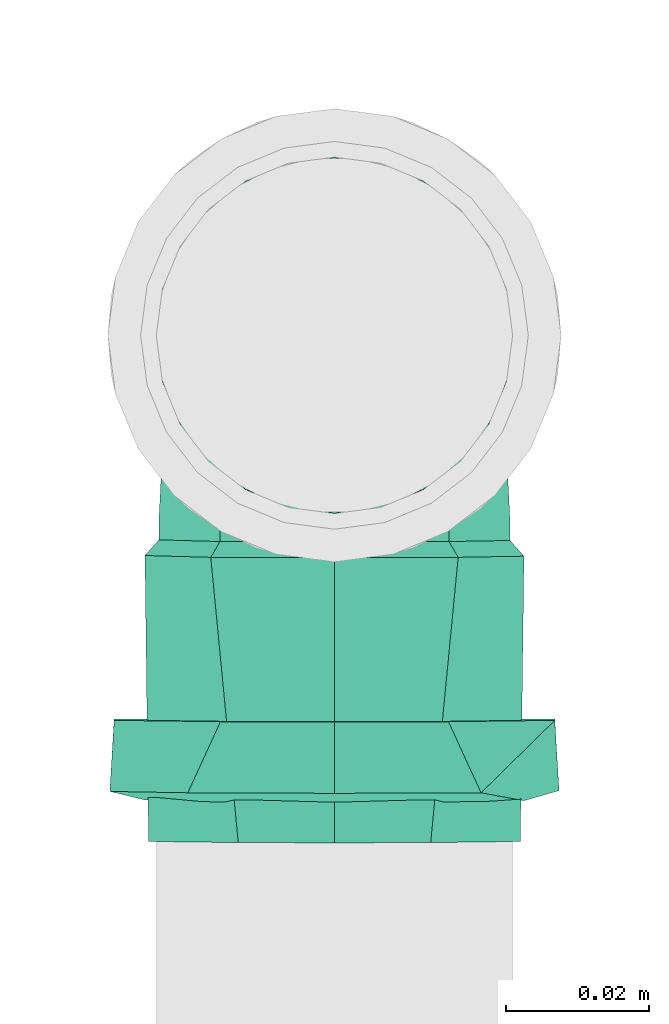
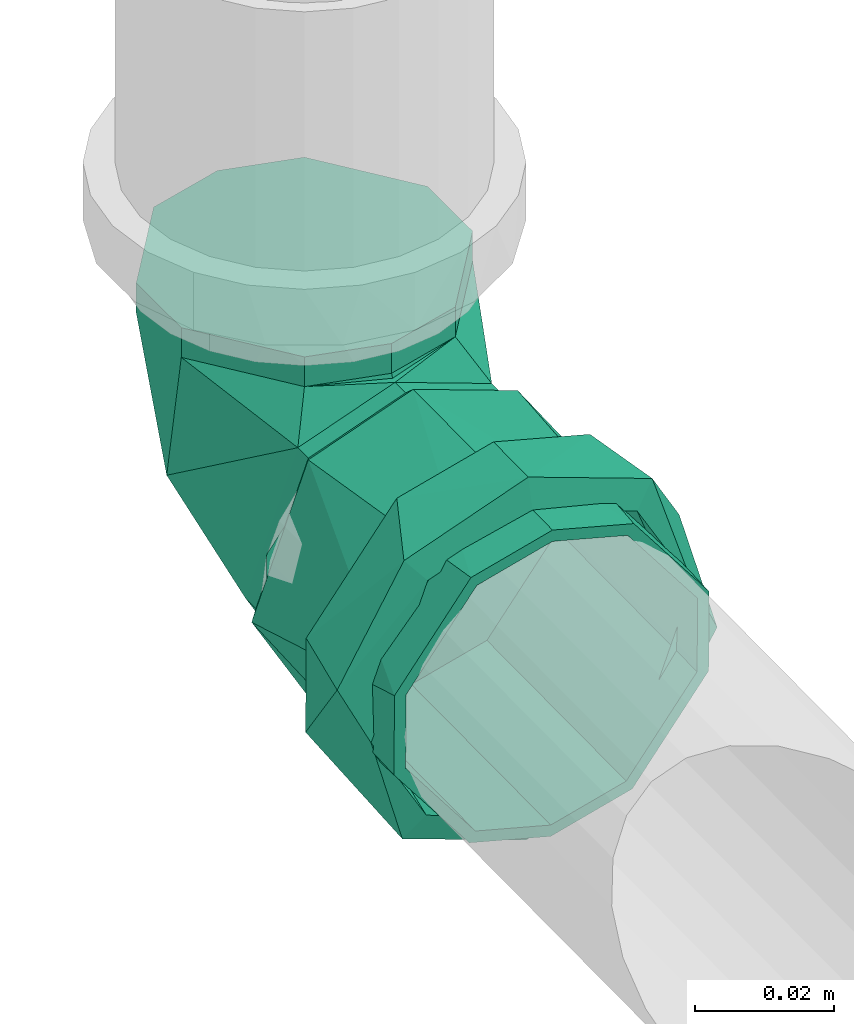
# One storey, part 250 of 589: 1 flow fitting.
"""IFC2X3 building model written with IfcOpenShell, lengths in millimetres."""

import ifcopenshell
import ifcopenshell.guid

model = None  # the IFC model being written
_history = None  # IfcOwnerHistory: only IFC2X3 demands one
_inside = {}  # id of a spatial element -> (the spatial element, [elements in it])
_under = {}  # id of a project, library or spatial element -> (it, [spatial elements below it])
_declared = {}  # id of a project -> (the project, [libraries it declares])
_typed = {}  # id of a type object -> (the type object, [elements of that type])
_made_of = {}  # id of a material, layer set ... -> (it, [elements and type objects made of it])


def new_model(schema):
    """Start an empty IFC model of exactly this schema.

    Asked for "IFC4X3", IfcOpenShell would pick the latest addendum, in which some entities
    have other attributes; the version numbers below select the first issue.
    IFC2X3 requires an IfcOwnerHistory on every rooted entity: one is made here for all.
    """
    global model, _history
    if schema == "IFC4X3":
        model = ifcopenshell.file(schema_version=(4, 3, 0, 0))
    else:
        model = ifcopenshell.file(schema=schema)
    _inside.clear()
    _under.clear()
    _declared.clear()
    _typed.clear()
    _made_of.clear()
    _history = None
    if model.schema == "IFC2X3":
        org = make("IfcOrganization", Name="unknown")
        user = make(
            "IfcPersonAndOrganization",
            ThePerson=make("IfcPerson", FamilyName="unknown"),
            TheOrganization=org,
        )
        app = make(
            "IfcApplication",
            ApplicationDeveloper=org,
            Version="unknown",
            ApplicationFullName="unknown",
            ApplicationIdentifier="unknown",
        )
        _history = make(
            "IfcOwnerHistory",
            OwningUser=user,
            OwningApplication=app,
            ChangeAction="ADDED",
            CreationDate=0,
        )
    return model


def make(cls, **values):
    """One entity of the class cls with the attributes given. An attribute that is None is left unset."""
    return model.create_entity(
        cls, **{name: value for name, value in values.items() if value is not None}
    )


def entity(cls, *values):
    """Any entity or typed value of the class cls, its attributes in the order of the schema. None: left unset."""
    e = model.create_entity(cls)
    for i, value in enumerate(values):
        if value is not None:
            e[i] = value
    return e


def rooted(cls, **values):
    """An entity with a GlobalId (a new one), such as an element, a storey or a relation."""
    return make(cls, GlobalId=ifcopenshell.guid.new(), OwnerHistory=_history, **values)


def si_unit(unit_type, name, prefix=None):
    """IfcSIUnit, for example si_unit("LENGTHUNIT", "METRE", prefix="MILLI")."""
    return make("IfcSIUnit", UnitType=unit_type, Prefix=prefix, Name=name)


def converted_unit(unit_type, name, factor, base, dimensions=None, offset=None):
    """IfcConversionBasedUnit, such as the inch: factor (a typed value) times the base unit."""
    return make(
        "IfcConversionBasedUnit"
        if offset is None
        else "IfcConversionBasedUnitWithOffset",
        ConversionOffset=offset,
        Dimensions=None
        if dimensions is None
        else entity("IfcDimensionalExponents", *dimensions),
        UnitType=unit_type,
        Name=name,
        ConversionFactor=make(
            "IfcMeasureWithUnit", ValueComponent=factor, UnitComponent=base
        ),
    )


def derived_unit(unit_type, elements):
    """IfcDerivedUnit: a product of units, each with its exponent."""
    return make(
        "IfcDerivedUnit",
        Elements=[
            make("IfcDerivedUnitElement", Unit=unit, Exponent=power)
            for unit, power in elements
        ],
        UnitType=unit_type,
    )


def assignment(units):
    """IfcUnitAssignment: the units of a project."""
    return None if units is None else make("IfcUnitAssignment", Units=units)


def point(xyz):
    """IfcCartesianPoint."""
    return None if xyz is None else make("IfcCartesianPoint", Coordinates=xyz)


def direction(xyz):
    """IfcDirection."""
    return None if xyz is None else make("IfcDirection", DirectionRatios=xyz)


def frame(location, z_axis=None, x_axis=None):
    """IfcAxis2Placement3D, a coordinate frame: its origin and axes. An axis left out is left unset."""
    return make(
        "IfcAxis2Placement3D",
        Location=point(location),
        Axis=direction(z_axis),
        RefDirection=direction(x_axis),
    )


def origin():
    """The frame at (0, 0, 0) with its axes left unset."""
    return frame((0.0, 0.0, 0.0))


def place(relative_to, where):
    """IfcLocalPlacement: puts the frame where relative to a parent placement (None: the world)."""
    return make(
        "IfcLocalPlacement", PlacementRelTo=relative_to, RelativePlacement=where
    )


def context(
    kind, dimensions, precision=None, world=None, true_north=None, identifier=None
):
    """IfcGeometricRepresentationContext, for example the 3D "Model" context."""
    return make(
        "IfcGeometricRepresentationContext",
        ContextIdentifier=identifier,
        ContextType=kind,
        CoordinateSpaceDimension=dimensions,
        Precision=precision,
        WorldCoordinateSystem=world,
        TrueNorth=true_north,
    )


def subcontext(parent, identifier, kind, view, scale=None):
    """IfcGeometricRepresentationSubContext, for example "Body" below "Model"."""
    return make(
        "IfcGeometricRepresentationSubContext",
        ContextIdentifier=identifier,
        ContextType=kind,
        ParentContext=parent,
        TargetScale=scale,
        TargetView=view,
    )


def project(units=None, contexts=None):
    """IfcProject with its units and contexts."""
    return rooted(
        "IfcProject",
        Name="project",
        RepresentationContexts=contexts,
        UnitsInContext=assignment(units),
    )


def spatial(cls, under=None, at=None, **own):
    """A site, building, storey or space (cls), placed at a placement, below another one or the project."""
    s = rooted(cls, ObjectPlacement=at, **own)
    if under is not None:
        _under.setdefault(under.id(), (under, []))[1].append(s)
    return s


def faces_of(points, faces, orient=None, outer=None):
    """IfcFace entities. A face is a list of loops; a loop is a list of indices into points, from 0.

    orient and outer hold one flag for each loop. By default every Orientation is true, the
    first loop of a face is its IfcFaceOuterBound and the others are IfcFaceBound.
    """
    made = []
    for i, loops in enumerate(faces):
        bounds = []
        for j, loop in enumerate(loops):
            is_outer = j == 0 if outer is None else outer[i][j]
            bounds.append(
                make(
                    "IfcFaceOuterBound" if is_outer else "IfcFaceBound",
                    Bound=make("IfcPolyLoop", Polygon=[points[k] for k in loop]),
                    Orientation=True if orient is None else orient[i][j],
                )
            )
        made.append(make("IfcFace", Bounds=bounds))
    return made


def faceted_brep(points, faces, orient=None, outer=None, voids=None):
    """IfcFacetedBrep: a solid bounded by flat faces; with voids (closed shells), ...WithVoids."""
    shared = [point(p) for p in points]
    hull = make("IfcClosedShell", CfsFaces=faces_of(shared, faces, orient, outer))
    if voids is None:
        return make("IfcFacetedBrep", Outer=hull)
    return make(
        "IfcFacetedBrepWithVoids",
        Outer=hull,
        Voids=[
            make(cls, CfsFaces=faces_of(shared, fs, o, b)) for cls, fs, o, b in voids
        ],
    )


def shape(context_of_items, identifier, shape_type, items):
    """IfcShapeRepresentation: the items that make up one representation, for example the "Body"."""
    return make(
        "IfcShapeRepresentation",
        ContextOfItems=context_of_items,
        RepresentationIdentifier=identifier,
        RepresentationType=shape_type,
        Items=items,
    )


def source(mapping_origin, context_of_items, identifier, shape_type, items):
    """IfcRepresentationMap: a shape defined once, which mapped items show again and again."""
    return make(
        "IfcRepresentationMap",
        MappingOrigin=mapping_origin,
        MappedRepresentation=shape(context_of_items, identifier, shape_type, items),
    )


def transform(
    local_origin,
    x_axis=None,
    y_axis=None,
    z_axis=None,
    scale=None,
    scale2=None,
    scale3=None,
    uniform=True,
):
    """IfcCartesianTransformationOperator3D, or its non-uniform kind. x_axis, y_axis, z_axis: its Axis1, 2, 3."""
    if uniform:
        return make(
            "IfcCartesianTransformationOperator3D",
            Axis1=direction(x_axis),
            Axis2=direction(y_axis),
            LocalOrigin=point(local_origin),
            Scale=scale,
            Axis3=direction(z_axis),
        )
    return make(
        "IfcCartesianTransformationOperator3DnonUniform",
        Axis1=direction(x_axis),
        Axis2=direction(y_axis),
        LocalOrigin=point(local_origin),
        Scale=scale,
        Axis3=direction(z_axis),
        Scale2=scale2,
        Scale3=scale3,
    )


def mapped(mapping_source, mapping_target):
    """IfcMappedItem: shows the shape of a source again, moved by a transform."""
    return make(
        "IfcMappedItem", MappingSource=mapping_source, MappingTarget=mapping_target
    )


def material(Name=None, Category=None):
    """IfcMaterial."""
    return make("IfcMaterial", Name=Name, Category=Category)


def made_of(thing, what):
    """Note that an element or type object is made of a material, layer set ...; save() writes the relation."""
    if what is not None:
        _made_of.setdefault(what.id(), (what, []))[1].append(thing)
    return thing


def type_object(cls, material=None, **own):
    """A type object (cls), such as IfcWallType, which elements share."""
    return made_of(rooted(cls, **own), material)


def type_shapes(of_type, sources):
    """Give a type object the sources (RepresentationMaps) that its elements show as mapped items."""
    of_type.RepresentationMaps = sources


def element(
    cls,
    number,
    at=None,
    inside=None,
    cuts=None,
    type_object=None,
    material=None,
    context=None,
    identifier="Body",
    shape_type=None,
    held_by="IfcProductDefinitionShape",
    body=None,
    shapes=None,
    **own,
):
    """One element of the class cls, such as IfcWall. Its Tag is "e" and its number.

    at: its placement. inside: the storey or other place that contains it. cuts: it is an
    opening in that element (IfcRelVoidsElement). A single representation is given by context,
    identifier, shape_type and body (its items); several are given by shapes. held_by: the class
    of the entity that holds the representations. save() writes the other relations.
    """
    e = rooted(cls, Tag="e%d" % number, ObjectPlacement=at, **own)
    if body is not None:
        shapes = [shape(context, identifier, shape_type, body)]
    if shapes is not None:
        e.Representation = make(held_by, Representations=shapes)
    if inside is not None:
        _inside.setdefault(inside.id(), (inside, []))[1].append(e)
    if cuts is not None:
        rooted(
            "IfcRelVoidsElement", RelatingBuildingElement=cuts, RelatedOpeningElement=e
        )
    if type_object is not None:
        _typed.setdefault(type_object.id(), (type_object, []))[1].append(e)
    return made_of(e, material)


def aggregate(whole, parts):
    """IfcRelAggregates: a whole, such as a stair, and the parts it consists of."""
    return rooted("IfcRelAggregates", RelatingObject=whole, RelatedObjects=parts)


def save(model, path):
    """Write the relations noted so far, then the file.

    IfcRelAggregates (storeys below a building ...), IfcRelContainedInSpatialStructure (elements
    in a storey), IfcRelDefinesByType, IfcRelAssociatesMaterial and IfcRelDeclares: one each for
    every whole, place, type object, material and project.
    """
    for whole, parts in _under.values():
        aggregate(whole, parts)
    for where, things in _inside.values():
        rooted(
            "IfcRelContainedInSpatialStructure",
            RelatedElements=things,
            RelatingStructure=where,
        )
    for kind, things in _typed.values():
        rooted("IfcRelDefinesByType", RelatedObjects=things, RelatingType=kind)
    for what, things in _made_of.values():
        rooted("IfcRelAssociatesMaterial", RelatedObjects=things, RelatingMaterial=what)
    for by, libraries in _declared.values():
        rooted("IfcRelDeclares", RelatingContext=by, RelatedDefinitions=libraries)
    model.write(path)


model = new_model("IFC2X3")

# Units and contexts
model_context = context("Model", 3, precision=0.01, world=origin(), true_north=direction((6.123031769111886e-17, 1.0)))
body_context = subcontext(model_context, "Body", "Model", "MODEL_VIEW")
ifc_project = project(units=[si_unit("LENGTHUNIT", "METRE", prefix="MILLI"), si_unit("AREAUNIT", "SQUARE_METRE"), si_unit("VOLUMEUNIT", "CUBIC_METRE"), converted_unit("PLANEANGLEUNIT", "DEGREE", entity("IfcRatioMeasure", 0.017453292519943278), si_unit("PLANEANGLEUNIT", "RADIAN"), dimensions=[0, 0, 0, 0, 0, 0, 0]), si_unit("MASSUNIT", "GRAM", prefix="KILO"), derived_unit("MASSDENSITYUNIT", [(si_unit("MASSUNIT", "GRAM", prefix="KILO"), 1), (si_unit("LENGTHUNIT", "METRE"), -3)]), derived_unit("IONCONCENTRATIONUNIT", [(si_unit("MASSUNIT", "GRAM", prefix="KILO"), 1), (si_unit("LENGTHUNIT", "METRE"), -3)]), derived_unit("MOMENTOFINERTIAUNIT", [(si_unit("LENGTHUNIT", "METRE"), 4)]), si_unit("TIMEUNIT", "SECOND"), si_unit("FREQUENCYUNIT", "HERTZ"), si_unit("THERMODYNAMICTEMPERATUREUNIT", "DEGREE_CELSIUS"), derived_unit("THERMALTRANSMITTANCEUNIT", [(si_unit("MASSUNIT", "GRAM", prefix="KILO"), 1), (si_unit("THERMODYNAMICTEMPERATUREUNIT", "KELVIN"), -1), (si_unit("TIMEUNIT", "SECOND"), -3)]), derived_unit("THERMALCONDUCTANCEUNIT", [(si_unit("MASSUNIT", "GRAM", prefix="KILO"), 1), (si_unit("THERMODYNAMICTEMPERATUREUNIT", "KELVIN"), -1), (si_unit("TIMEUNIT", "SECOND"), -3), (si_unit("LENGTHUNIT", "METRE"), 1)]), derived_unit("VOLUMETRICFLOWRATEUNIT", [(si_unit("LENGTHUNIT", "METRE"), 3), (si_unit("TIMEUNIT", "SECOND"), -1)]), derived_unit("MASSFLOWRATEUNIT", [(si_unit("MASSUNIT", "GRAM", prefix="KILO"), 1), (si_unit("TIMEUNIT", "SECOND"), -1)]), derived_unit("ROTATIONALFREQUENCYUNIT", [(si_unit("TIMEUNIT", "SECOND"), -1)]), si_unit("ELECTRICCURRENTUNIT", "AMPERE"), si_unit("ELECTRICVOLTAGEUNIT", "VOLT"), si_unit("POWERUNIT", "WATT"), si_unit("FORCEUNIT", "NEWTON", prefix="KILO"), si_unit("ILLUMINANCEUNIT", "LUX"), si_unit("LUMINOUSFLUXUNIT", "LUMEN"), si_unit("LUMINOUSINTENSITYUNIT", "CANDELA"), derived_unit("USERDEFINED", [(si_unit("MASSUNIT", "GRAM", prefix="KILO"), -1), (si_unit("LENGTHUNIT", "METRE"), -2), (si_unit("TIMEUNIT", "SECOND"), 3), (si_unit("LUMINOUSFLUXUNIT", "LUMEN"), 1)]), derived_unit("USERDEFINED", [(si_unit("MASSUNIT", "GRAM", prefix="KILO"), 1), (si_unit("TIMEUNIT", "SECOND"), -3), (si_unit("LENGTHUNIT", "METRE"), 3), (si_unit("ELECTRICCURRENTUNIT", "AMPERE"), -2)]), derived_unit("SOUNDPOWERUNIT", [(si_unit("MASSUNIT", "GRAM", prefix="KILO"), 1), (si_unit("TIMEUNIT", "SECOND"), -3), (si_unit("LENGTHUNIT", "METRE"), 2)]), derived_unit("SOUNDPRESSUREUNIT", [(si_unit("MASSUNIT", "GRAM", prefix="KILO"), 1), (si_unit("LENGTHUNIT", "METRE"), -1), (si_unit("TIMEUNIT", "SECOND"), -2)]), derived_unit("LINEARVELOCITYUNIT", [(si_unit("LENGTHUNIT", "METRE"), 1), (si_unit("TIMEUNIT", "SECOND"), -1)]), si_unit("PRESSUREUNIT", "PASCAL"), derived_unit("USERDEFINED", [(si_unit("MASSUNIT", "GRAM", prefix="KILO"), 1), (si_unit("LENGTHUNIT", "METRE"), -2), (si_unit("TIMEUNIT", "SECOND"), -2)]), derived_unit("LINEARFORCEUNIT", [(si_unit("MASSUNIT", "GRAM", prefix="KILO"), 1), (si_unit("TIMEUNIT", "SECOND"), -2)]), derived_unit("PLANARFORCEUNIT", [(si_unit("MASSUNIT", "GRAM", prefix="KILO"), 1), (si_unit("LENGTHUNIT", "METRE"), -1), (si_unit("TIMEUNIT", "SECOND"), -2)]), derived_unit("SPECIFICHEATCAPACITYUNIT", [(si_unit("THERMODYNAMICTEMPERATUREUNIT", "KELVIN"), -1), (si_unit("LENGTHUNIT", "METRE"), 2), (si_unit("TIMEUNIT", "SECOND"), -2)]), derived_unit("HEATINGVALUEUNIT", [(si_unit("LENGTHUNIT", "METRE"), 2), (si_unit("TIMEUNIT", "SECOND"), -2)]), derived_unit("VAPORPERMEABILITYUNIT", [(si_unit("LENGTHUNIT", "METRE"), -1), (si_unit("TIMEUNIT", "SECOND"), 1)]), derived_unit("DYNAMICVISCOSITYUNIT", [(si_unit("MASSUNIT", "GRAM", prefix="KILO"), 1), (si_unit("TIMEUNIT", "SECOND"), -1), (si_unit("LENGTHUNIT", "METRE"), -1)]), derived_unit("THERMALEXPANSIONCOEFFICIENTUNIT", [(si_unit("THERMODYNAMICTEMPERATUREUNIT", "KELVIN"), -1)]), derived_unit("MODULUSOFELASTICITYUNIT", [(si_unit("MASSUNIT", "GRAM", prefix="KILO"), 1), (si_unit("LENGTHUNIT", "METRE"), -1), (si_unit("TIMEUNIT", "SECOND"), -2)]), derived_unit("ISOTHERMALMOISTURECAPACITYUNIT", [(si_unit("LENGTHUNIT", "METRE"), 3), (si_unit("MASSUNIT", "GRAM", prefix="KILO"), -1)]), derived_unit("MOISTUREDIFFUSIVITYUNIT", [(si_unit("TIMEUNIT", "SECOND"), -1), (si_unit("LENGTHUNIT", "METRE"), 2)])], contexts=[model_context])

# Site, building, storey
site_placement = place(None, origin())
site = spatial("IfcSite", under=ifc_project, at=site_placement, Name="Default", CompositionType="ELEMENT")
building_placement = place(site_placement, origin())
building = spatial("IfcBuilding", under=site, at=building_placement, CompositionType="ELEMENT")
storey_placement = place(building_placement, frame((0.0, 0.0, 100.0)))
storey = spatial("IfcBuildingStorey", under=building, at=storey_placement, Name="TÉRREO", CompositionType="ELEMENT", Elevation=100.0)

# Flow fitting
ifc_material = material(Name="PVC Série Normal")
pipe_fitting_type = type_object("IfcPipeFittingType", Name="PVC Esgoto_Joelho 45_90_Rodrigo MEP:a. Série Normal", PredefinedType="NOTDEFINED", material=ifc_material)
shared_shape = source(origin(), body_context, "Body", "Brep", [
    faceted_brep([(-6.212752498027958, 25.804714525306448, 24.14814565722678), (-21.392152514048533, 25.95650852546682, 12.500000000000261), (-24.741349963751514, 25.990000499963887, 0.0), (-21.392152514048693, 25.956508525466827, -12.499999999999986), (-6.21275249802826, 25.804714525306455, -24.1481456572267), (6.727552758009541, 25.675311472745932, -24.14814565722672), (21.906952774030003, 25.52351747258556, -12.500000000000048), (25.256150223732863, 25.490025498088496, 0.0), (21.906952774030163, 25.52351747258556, 12.499999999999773), (6.7275527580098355, 25.675311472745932, 24.148145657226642), (25.308147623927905, 30.689765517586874, 0.0), (21.958950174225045, 30.72325749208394, -12.500000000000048), (6.779550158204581, 30.87505149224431, -24.14814565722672), (-6.160755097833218, 31.004454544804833, -24.1481456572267), (-21.34015511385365, 31.156248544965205, -12.499999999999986), (-24.689352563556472, 31.18974051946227, 0.0), (-21.340155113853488, 31.1562485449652, 12.500000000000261), (-6.160755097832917, 31.00445454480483, 24.14814565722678), (6.779550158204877, 30.87505149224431, 24.148145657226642), (21.958950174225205, 30.72325749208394, 12.499999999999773)], [[[0, 1, 2, 3, 4, 5, 6, 7, 8, 9]], [[10, 11, 12, 13, 14, 15, 16, 17, 18, 19]], [[7, 10, 19, 8]], [[8, 19, 18, 9]], [[18, 17, 0, 9]], [[0, 17, 16, 1]], [[1, 16, 15, 2]], [[2, 15, 14, 3]], [[3, 14, 13, 4]], [[13, 12, 5, 4]], [[5, 12, 11, 6]], [[6, 11, 10, 7]]]),
    faceted_brep([(-70.94129996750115, -6.988114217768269, -26.07999730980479), (-70.94129996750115, -6.47047612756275, -24.14814565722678), (-70.94129996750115, 6.4704761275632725, -24.148145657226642), (-70.94129996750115, -23.382685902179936, -13.499999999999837), (-70.94129996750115, 6.988114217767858, -26.0799973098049), (-70.94129996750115, -21.650635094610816, -12.500000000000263), (-70.94129996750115, -25.0, 0.0), (-70.94129996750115, -27.0, 0.0), (-70.94129996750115, -21.650635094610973, 12.499999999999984), (-70.94129996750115, -23.382685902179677, 13.500000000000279), (-70.94129996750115, -6.470476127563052, 24.1481456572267), (-70.94129996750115, -6.98811421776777, 26.079997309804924), (-70.94129996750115, 6.470476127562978, 24.14814565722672), (-70.94129996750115, 6.988114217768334, 26.07999730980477), (-70.94129996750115, 21.650635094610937, 12.500000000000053), (-70.94129996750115, 23.38268590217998, 13.499999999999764), (-70.94129996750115, 27.0, 0.0), (-70.94129996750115, 25.0, 0.0), (-70.94129996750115, 23.382685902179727, -13.500000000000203), (-70.94129996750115, 21.6506350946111, -12.499999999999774), (-30.94129996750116, 21.650635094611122, -12.499999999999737), (-30.94129996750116, 25.0, 0.0), (-30.94129996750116, 6.4704761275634, -24.148145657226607), (-30.94129996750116, -6.470476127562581, -24.148145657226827), (-30.94129996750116, -21.650635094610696, -12.500000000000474), (-30.94129996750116, -25.0, 0.0), (-30.94129996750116, -21.65063509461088, 12.500000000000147), (-30.94129996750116, -6.470476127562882, 24.14814565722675), (-30.94129996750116, 6.470476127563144, 24.148145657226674), (-30.94129996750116, 21.650635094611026, 12.499999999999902), (-30.94129996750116, 27.0, 0.0), (-30.941299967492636, 20.682232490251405, 17.356418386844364), (-30.94129996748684, 4.685536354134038, 26.59033187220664), (-30.94129996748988, -20.686585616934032, 17.35122979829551), (-30.94129996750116, -27.0, 0.0), (-30.941299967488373, -8.000524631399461, 21.970780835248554), (-30.94129996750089, -20.686585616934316, -17.35122979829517), (-30.9412999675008, -4.6922062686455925, -26.589155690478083), (-30.94129996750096, 20.682232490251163, -17.356418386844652), (-30.94129996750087, 7.995013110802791, -21.97278703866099), (-28.74129996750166, -4.338459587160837, -24.62067765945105), (-28.741299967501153, 25.0, 0.0), (-28.741299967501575, 19.154245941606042, -16.065953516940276), (-28.741299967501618, 7.407893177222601, -20.34331558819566), (-28.741299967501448, -19.15021526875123, -16.070757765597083), (-28.741299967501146, -25.0, 0.0), (-28.741299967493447, -19.150215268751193, 16.07075776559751), (-28.741299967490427, -7.402789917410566, 20.345173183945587), (-28.74129996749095, 19.15424594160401, 16.065953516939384), (-28.741299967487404, 4.344635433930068, 24.619588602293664), (-25.741299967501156, 25.0, 0.0), (-25.741299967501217, 19.151286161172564, 16.069481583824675), (-25.741299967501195, 4.341396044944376, 24.62016003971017), (-25.741299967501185, -7.404832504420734, 20.344954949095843), (-25.741299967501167, -19.15106105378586, 16.069749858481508), (-25.741299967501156, -25.0, 0.0), (-25.741299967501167, -19.15106105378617, -16.069749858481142), (-25.741299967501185, -4.341051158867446, -24.62022085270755), (-25.741299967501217, 19.15128616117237, -16.069481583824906), (-25.7412999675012, 7.405117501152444, -20.344851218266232), (-6.212752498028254, 25.80471452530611, -24.1481456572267), (-21.39215251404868, 25.95650852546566, -12.499999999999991), (-24.74134996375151, 25.990000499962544, 0.0), (-21.3921525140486, 25.956508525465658, 12.500000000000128), (-6.2127524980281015, 25.80471452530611, 24.14814565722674), (6.7275527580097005, 25.67531147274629, 24.148145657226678), (21.906952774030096, 25.52351747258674, 12.499999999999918), (25.256150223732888, 25.490025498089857, 0.0), (21.90695277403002, 25.523517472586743, -12.500000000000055), (6.727552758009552, 25.67531147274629, -24.14814565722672), (-0.83580225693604, 1.5246716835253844, 23.354962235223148), (-3.2027279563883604, -15.730161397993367, 0.0), (10.140389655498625, -10.242300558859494, 0.0), (16.135012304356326, 8.632944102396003, 15.848254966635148), (-25.03773742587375, 25.289366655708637, 0.0), (15.761400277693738, 3.0452732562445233, 0.0), (16.135011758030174, 8.632944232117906, -15.848255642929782), (-0.8751695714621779, 1.433288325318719, -23.341145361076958)], [[[0, 1, 2]], [[1, 0, 3]], [[2, 4, 0]], [[3, 5, 1]], [[3, 6, 5]], [[6, 3, 7]], [[8, 6, 7]], [[8, 7, 9]], [[9, 10, 8]], [[9, 11, 10]], [[10, 11, 12]], [[13, 12, 11]], [[13, 14, 12]], [[14, 13, 15]], [[16, 14, 15]], [[17, 14, 16]], [[18, 17, 16]], [[18, 19, 17]], [[19, 18, 4]], [[4, 2, 19]], [[20, 21, 17, 19]], [[22, 20, 19, 2]], [[2, 1, 23, 22]], [[24, 23, 1, 5]], [[25, 24, 5, 6]], [[26, 25, 6, 8]], [[27, 26, 8, 10]], [[10, 12, 28, 27]], [[29, 28, 12, 14]], [[21, 29, 14, 17]], [[16, 15, 30]], [[15, 31, 30]], [[31, 15, 13]], [[31, 13, 32]], [[33, 11, 9]], [[34, 9, 7]], [[11, 33, 35, 32]], [[33, 9, 34]], [[11, 32, 13]], [[7, 3, 34]], [[3, 36, 34]], [[36, 3, 0]], [[36, 0, 37]], [[38, 4, 18]], [[30, 18, 16]], [[4, 38, 39, 37]], [[38, 18, 30]], [[4, 37, 0]], [[28, 29, 21, 20, 22, 23, 24, 25, 26, 27]], [[39, 40, 37]], [[41, 42, 30]], [[30, 42, 38]], [[38, 43, 39]], [[44, 45, 36]], [[38, 42, 43]], [[36, 37, 44]], [[34, 36, 45]], [[40, 39, 43]], [[44, 37, 40]], [[45, 46, 33]], [[33, 34, 45]], [[46, 35, 33]], [[46, 47, 35]], [[47, 32, 35]], [[48, 41, 30]], [[48, 31, 49]], [[31, 48, 30]], [[32, 47, 49]], [[49, 31, 32]], [[41, 48, 50]], [[48, 51, 50]], [[51, 48, 49]], [[51, 49, 52]], [[52, 47, 53]], [[46, 54, 53]], [[46, 45, 54]], [[49, 47, 52]], [[54, 45, 55]], [[47, 46, 53]], [[45, 44, 56]], [[45, 56, 55]], [[56, 44, 57]], [[58, 59, 43]], [[44, 40, 57]], [[40, 59, 57]], [[58, 43, 42]], [[42, 50, 58]], [[50, 42, 41]], [[59, 40, 43]], [[60, 61, 62, 63, 64, 65, 66, 67, 68, 69]], [[52, 70, 51]], [[54, 71, 70]], [[70, 52, 53, 54]], [[72, 73, 70]], [[50, 63, 74]], [[51, 63, 50]], [[54, 55, 71]], [[72, 70, 71]], [[75, 67, 66]], [[65, 70, 73]], [[73, 75, 66]], [[74, 63, 62]], [[73, 66, 65]], [[63, 51, 64]], [[70, 64, 51]], [[73, 72, 75]], [[65, 64, 70]], [[72, 76, 75]], [[71, 55, 56]], [[77, 58, 60]], [[77, 57, 59, 58]], [[77, 71, 56]], [[56, 57, 77]], [[77, 69, 76]], [[58, 50, 61]], [[74, 62, 61]], [[71, 77, 72]], [[61, 60, 58]], [[68, 75, 76]], [[68, 67, 75]], [[72, 77, 76]], [[76, 69, 68]], [[60, 69, 77]], [[61, 50, 74]]]),
    faceted_brep([(-53.94129996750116, 6.9881142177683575, -26.07999730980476), (-53.94129996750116, -6.988114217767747, -26.079997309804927), (-53.94129996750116, -8.282209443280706, -30.909626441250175), (-53.94129996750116, 8.28220944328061, -30.9096264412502), (-53.94129996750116, 23.38268590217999, -13.499999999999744), (-53.94129996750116, -27.712812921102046, -16.0), (-53.94129996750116, -23.38268590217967, -13.500000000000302), (-53.94129996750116, -27.0, 0.0), (-53.94129996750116, -32.0, 0.0), (-53.94129996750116, -23.382685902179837, 13.500000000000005), (-53.94129996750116, -27.712812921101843, 16.0), (-53.94129996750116, -6.988114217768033, 26.07999730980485), (-53.94129996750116, -8.28220944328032, 30.909626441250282), (-53.94129996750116, 6.988114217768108, 26.07999730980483), (-53.94129996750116, 8.282209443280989, 30.909626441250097), (-53.94129996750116, 23.382685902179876, 13.499999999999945), (-53.94129996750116, 27.712812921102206, 16.0), (-53.94129996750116, 32.0, 0.0), (-53.94129996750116, 27.0, 0.0), (-53.94129996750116, 27.712812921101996, -16.0), (-63.94129996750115, 27.0, 0.0), (-65.24129996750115, 27.0, 0.0), (-63.94129996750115, 25.191342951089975, -6.750000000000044), (-63.94129996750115, 23.38268590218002, -13.499999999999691), (-63.94129996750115, 19.284042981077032, -16.644999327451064), (-63.94129996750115, 15.185400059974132, -19.789998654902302), (-63.94129996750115, 11.086757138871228, -22.934997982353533), (-63.94129996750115, 6.988114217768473, -26.07999730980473), (-63.94129996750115, 0.0, -26.079997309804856), (-63.94129996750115, -6.988114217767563, -26.079997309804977), (-63.94129996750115, -11.086757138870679, -22.934997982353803), (-63.94129996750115, -15.185400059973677, -19.789998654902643), (-63.94129996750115, -19.284042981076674, -16.644999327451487), (-63.94129996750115, -23.382685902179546, -13.50000000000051), (-63.94129996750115, -25.191342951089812, -6.750000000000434), (-65.24129996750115, -27.0, 0.0), (-63.94129996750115, -27.0, 0.0), (-63.94129996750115, -25.19134295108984, 6.750000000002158), (-63.94129996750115, -23.382685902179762, 13.500000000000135), (-63.94129996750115, -19.284042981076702, 16.64499932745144), (-63.94129996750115, -15.185400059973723, 19.7899986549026), (-63.94129996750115, -11.086757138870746, 22.934997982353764), (-63.94129996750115, -6.988114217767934, 26.079997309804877), (-63.94129996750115, 0.0, 26.079997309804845), (-63.94129996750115, 6.988114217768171, 26.079997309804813), (-63.94129996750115, 11.086757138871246, 22.93499798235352), (-63.94129996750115, 15.185400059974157, 19.789998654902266), (-63.94129996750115, 19.284042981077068, 16.644999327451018), (-63.94129996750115, 23.382685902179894, 13.499999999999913), (-63.94129996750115, 25.19134295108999, 6.74999999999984), (-63.94129996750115, 32.0, 0.0), (-63.94129996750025, 24.512275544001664, 20.570569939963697), (-63.94129996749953, -5.561133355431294, 31.51307341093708), (-63.94129996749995, -24.51743480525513, 20.56442050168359), (-63.94129996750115, -32.0, 0.0), (-63.9412999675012, -24.51743480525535, -20.564420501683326), (-63.941299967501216, 5.553228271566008, -31.514467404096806), (-63.94129996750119, 24.512275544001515, -20.570569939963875), (-65.2412999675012, -23.84329280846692, -8.675614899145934), (-65.24129996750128, -20.686585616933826, -17.351229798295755), (-65.24129996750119, 23.841116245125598, -8.678209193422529), (-65.24129996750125, 20.6822324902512, -17.356418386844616), (-65.24129996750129, -12.689395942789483, -21.970192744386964), (-65.24129996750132, -4.692206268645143, -26.589155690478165), (-65.24129996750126, 14.338622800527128, -19.664602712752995), (-65.24129996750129, 1.6514034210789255, -24.280971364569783), (-65.24129996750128, 7.995013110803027, -21.97278703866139), (-65.24129996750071, 23.84111624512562, 8.678209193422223), (-65.24129996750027, 20.68223249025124, 17.35641838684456), (-65.24129996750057, -23.843292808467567, 8.675614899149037), (-65.24129996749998, -20.68658561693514, 17.351229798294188), (-65.24129996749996, 12.683884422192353, 21.973375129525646), (-65.24129996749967, 4.685536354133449, 26.590331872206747), (-65.2412999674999, -14.343555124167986, 19.66100531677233), (-65.24129996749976, -1.6574941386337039, 24.280556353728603), (-65.24129996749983, -8.000524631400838, 21.97078083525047)], [[[0, 1, 2]], [[2, 3, 0]], [[4, 0, 3]], [[5, 2, 1]], [[1, 6, 5]], [[6, 7, 5]], [[8, 5, 7]], [[8, 7, 9]], [[10, 8, 9]], [[9, 11, 10]], [[11, 12, 10]], [[13, 12, 11]], [[12, 13, 14]], [[13, 15, 14]], [[16, 14, 15]], [[16, 15, 17]], [[17, 15, 18]], [[18, 4, 19]], [[17, 18, 19]], [[3, 19, 4]], [[4, 18, 20, 21, 22, 23]], [[0, 4, 23, 24, 25, 26, 27]], [[0, 27, 28, 29, 1]], [[6, 1, 29, 30, 31, 32, 33]], [[7, 6, 33, 34, 35, 36]], [[9, 7, 36, 35, 37, 38]], [[11, 9, 38, 39, 40, 41, 42]], [[11, 42, 43, 44, 13]], [[15, 13, 44, 45, 46, 47, 48]], [[18, 15, 48, 49, 21, 20]], [[50, 51, 16]], [[50, 16, 17]], [[16, 51, 14]], [[51, 52, 14]], [[12, 52, 53]], [[10, 53, 54]], [[53, 10, 12]], [[10, 54, 8]], [[52, 12, 14]], [[54, 55, 5]], [[54, 5, 8]], [[5, 55, 2]], [[55, 56, 2]], [[3, 56, 57]], [[19, 57, 50]], [[57, 19, 3]], [[19, 50, 17]], [[56, 3, 2]], [[58, 33, 59]], [[23, 60, 61]], [[32, 31, 59, 33]], [[30, 29, 62, 31]], [[24, 23, 61, 25]], [[29, 28, 63]], [[26, 25, 64]], [[65, 63, 28]], [[31, 62, 59]], [[63, 62, 29]], [[60, 22, 21]], [[34, 58, 35]], [[66, 26, 64]], [[28, 27, 65]], [[27, 66, 65]], [[27, 26, 66]], [[64, 25, 61]], [[34, 33, 58]], [[60, 23, 22]], [[67, 48, 68]], [[38, 69, 70]], [[47, 46, 68, 48]], [[45, 44, 71, 46]], [[39, 38, 70, 40]], [[44, 43, 72]], [[41, 40, 73]], [[74, 72, 43]], [[46, 71, 68]], [[72, 71, 44]], [[69, 37, 35]], [[49, 67, 21]], [[75, 41, 73]], [[43, 42, 74]], [[42, 75, 74]], [[42, 41, 75]], [[73, 40, 70]], [[49, 48, 67]], [[69, 38, 37]], [[54, 35, 58, 59, 55]], [[55, 59, 62, 63]], [[55, 63, 56]], [[57, 61, 60, 21, 50]], [[57, 56, 61]], [[56, 63, 65, 66, 64, 61]], [[50, 21, 67, 68, 51]], [[51, 68, 71, 72]], [[51, 72, 52]], [[53, 70, 69, 35, 54]], [[53, 52, 70]], [[52, 72, 74, 75, 73, 70]]]),
])
type_shapes(pipe_fitting_type, [shared_shape])
flow_fitting_placement = place(storey_placement, frame((2699.4844981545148, 1937.7290075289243, 3017.4), z_axis=(1.0, 0.0, 0.0), x_axis=(0.0, 0.9999500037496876, 0.00999950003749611)))
element("IfcFlowFitting", 1, at=flow_fitting_placement, inside=storey, type_object=pipe_fitting_type, material=ifc_material, Name="PVC Esgoto_Joelho 45_90_Rodrigo MEP:a. Série Normal", ObjectType="PVC Esgoto_Joelho 45_90_Rodrigo MEP:a. Série Normal", context=body_context, shape_type="MappedRepresentation", body=[
    mapped(shared_shape, transform((0.0, 0.0, 0.0), scale=1.0)),
])

save(model, "model.ifc")
